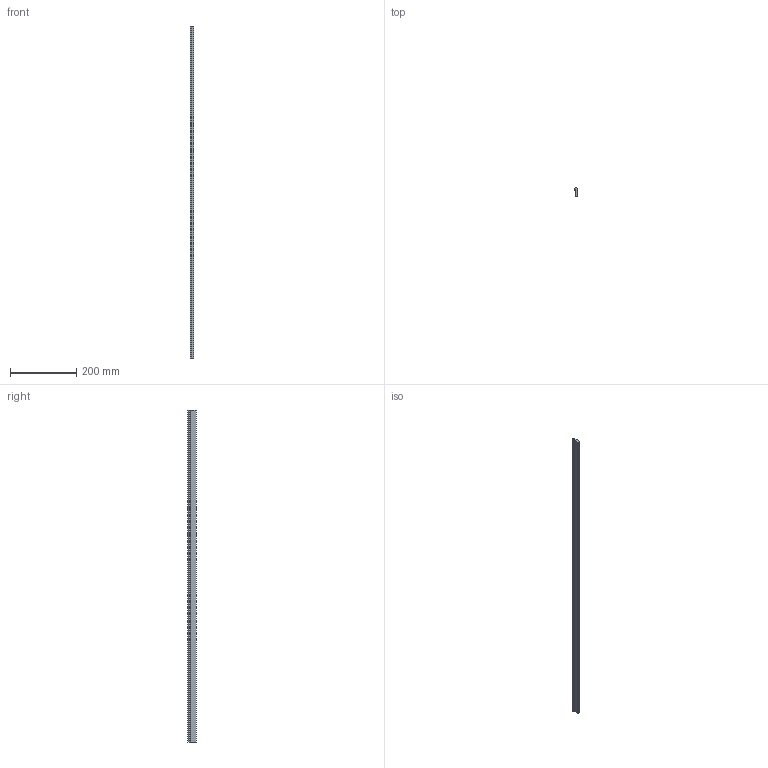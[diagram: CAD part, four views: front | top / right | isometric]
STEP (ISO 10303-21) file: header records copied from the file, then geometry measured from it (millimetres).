
FILE_DESCRIPTION(('STEP AP203'),'1');
FILE_NAME('T4SS-1000.stp','2020-09-30T01:57:18',(' '),(' '),'Spatial InterOp 3D',' ',' ');
FILE_SCHEMA(('CONFIG_CONTROL_DESIGN'));
Length unit declared in the file: millimetre
Products named in the file (1): T4SS-1000
Bounding box: 11.1 x 26.34 x 1000 mm (x, y, z)
Volume: 205766.3 mm3; surface area: 69200.8 mm2
Topology: 1 solids, 1 shells, 17 faces, 45 edges, 30 vertices
Faces by surface type: plane 9, cylinder 8
Entity records: 597 total; most frequent: DIRECTION 97, CARTESIAN_POINT 93, ORIENTED_EDGE 90, EDGE_CURVE 45, AXIS2_PLACEMENT_3D 34, VERTEX_POINT 30, LINE 29, VECTOR 29
